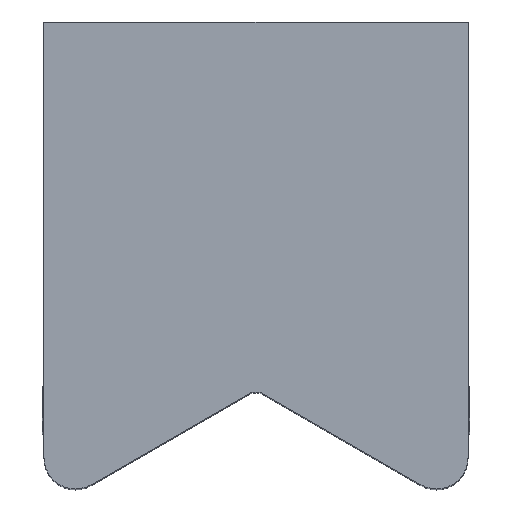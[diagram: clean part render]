
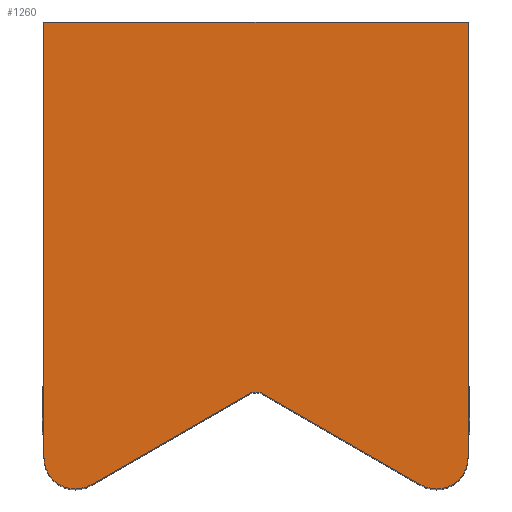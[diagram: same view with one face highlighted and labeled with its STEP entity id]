
A CAD part, top view. The second image highlights one B-rep face of the part: STEP entity #1260.
In plain terms, the highlighted planar face has unit normal (0, 0, 1).
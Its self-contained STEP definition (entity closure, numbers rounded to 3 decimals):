
#127=LINE('',#1967,#260);
#131=LINE('',#1979,#264);
#137=LINE('',#1996,#270);
#139=LINE('',#1999,#272);
#140=LINE('',#2001,#273);
#260=VECTOR('',#1602,10.);
#264=VECTOR('',#1614,10.);
#270=VECTOR('',#1630,10.);
#272=VECTOR('',#1634,10.);
#273=VECTOR('',#1637,10.);
#373=FACE_OUTER_BOUND('',#455,.T.);
#455=EDGE_LOOP('',(#1013,#1014,#1015,#1016,#1017,#1018,#1019,#1020));
#521=CIRCLE('',#1369,1.);
#522=CIRCLE('',#1372,2.);
#525=CIRCLE('',#1378,2.);
#590=VERTEX_POINT('',#1957);
#591=VERTEX_POINT('',#1959);
#593=VERTEX_POINT('',#1965);
#594=VERTEX_POINT('',#1969);
#597=VERTEX_POINT('',#1977);
#601=VERTEX_POINT('',#1989);
#602=VERTEX_POINT('',#1990);
#603=VERTEX_POINT('',#1995);
#729=EDGE_CURVE('',#590,#591,#521,.T.);
#733=EDGE_CURVE('',#590,#593,#127,.T.);
#734=EDGE_CURVE('',#594,#593,#522,.T.);
#739=EDGE_CURVE('',#594,#597,#131,.T.);
#744=EDGE_CURVE('',#601,#602,#525,.T.);
#747=EDGE_CURVE('',#603,#602,#137,.T.);
#749=EDGE_CURVE('',#601,#591,#139,.T.);
#750=EDGE_CURVE('',#597,#603,#140,.T.);
#1013=ORIENTED_EDGE('',*,*,#734,.F.);
#1014=ORIENTED_EDGE('',*,*,#739,.T.);
#1015=ORIENTED_EDGE('',*,*,#750,.T.);
#1016=ORIENTED_EDGE('',*,*,#747,.T.);
#1017=ORIENTED_EDGE('',*,*,#744,.F.);
#1018=ORIENTED_EDGE('',*,*,#749,.T.);
#1019=ORIENTED_EDGE('',*,*,#729,.F.);
#1020=ORIENTED_EDGE('',*,*,#733,.T.);
#1191=PLANE('',#1382);
#1260=ADVANCED_FACE('',(#373),#1191,.T.);
#1369=AXIS2_PLACEMENT_3D('',#1960,#1595,#1596);
#1372=AXIS2_PLACEMENT_3D('',#1970,#1605,#1606);
#1378=AXIS2_PLACEMENT_3D('',#1991,#1624,#1625);
#1382=AXIS2_PLACEMENT_3D('',#2002,#1638,#1639);
#1595=DIRECTION('center_axis',(0.,0.,1.));
#1596=DIRECTION('ref_axis',(0.,1.,0.));
#1602=DIRECTION('',(0.866,-0.5,0.));
#1605=DIRECTION('center_axis',(0.,0.,-1.));
#1606=DIRECTION('ref_axis',(0.5,-0.866,0.));
#1614=DIRECTION('',(0.,1.,0.));
#1624=DIRECTION('center_axis',(0.,0.,-1.));
#1625=DIRECTION('ref_axis',(-0.5,-0.866,0.));
#1630=DIRECTION('',(0.,-1.,0.));
#1634=DIRECTION('',(0.866,0.5,0.));
#1637=DIRECTION('',(-1.,0.,0.));
#1638=DIRECTION('center_axis',(0.,0.,1.));
#1639=DIRECTION('ref_axis',(1.,0.,0.));
#1957=CARTESIAN_POINT('',(0.5,7.506,35.));
#1959=CARTESIAN_POINT('',(-0.5,7.506,35.));
#1960=CARTESIAN_POINT('Origin',(0.,6.64,35.));
#1965=CARTESIAN_POINT('',(10.5,1.732,35.));
#1967=CARTESIAN_POINT('',(13.5,0.,35.));
#1969=CARTESIAN_POINT('',(13.5,3.464,35.));
#1970=CARTESIAN_POINT('Origin',(11.5,3.464,35.));
#1977=CARTESIAN_POINT('',(13.5,31.2,35.));
#1979=CARTESIAN_POINT('',(13.5,0.,35.));
#1989=CARTESIAN_POINT('',(-10.5,1.732,35.));
#1990=CARTESIAN_POINT('',(-13.5,3.464,35.));
#1991=CARTESIAN_POINT('Origin',(-11.5,3.464,35.));
#1995=CARTESIAN_POINT('',(-13.5,31.2,35.));
#1996=CARTESIAN_POINT('',(-13.5,31.2,35.));
#1999=CARTESIAN_POINT('',(-13.5,0.,35.));
#2001=CARTESIAN_POINT('',(13.5,31.2,35.));
#2002=CARTESIAN_POINT('Origin',(0.,15.6,35.));
